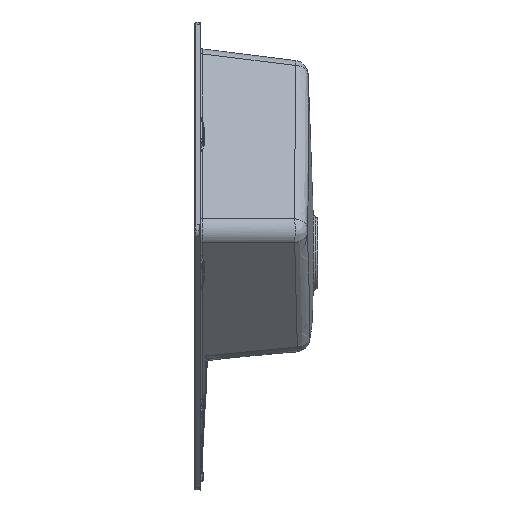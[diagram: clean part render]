
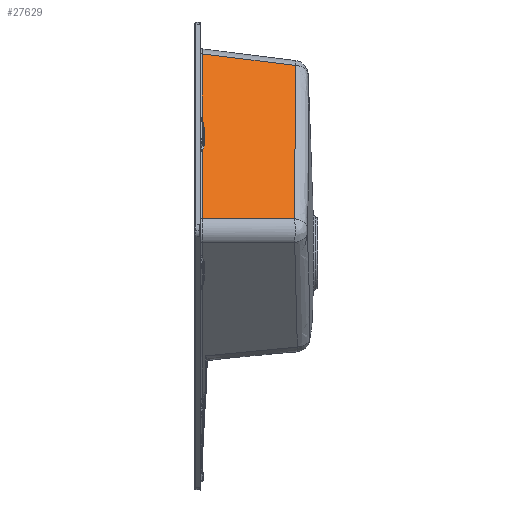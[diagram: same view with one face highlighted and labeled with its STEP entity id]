
A CAD part, left-side view. The second image highlights one B-rep face of the part: STEP entity #27629.
In plain terms, the highlighted planar face has unit normal (-0.704, -0.087, 0.704).
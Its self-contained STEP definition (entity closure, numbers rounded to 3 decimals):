
#566 = EDGE_CURVE ( 'NONE', #27759, #13635, #8551, .T. ) ;
#1130 = CARTESIAN_POINT ( 'NONE',  ( -508.543, -157.051, 19.724 ) ) ;
#1260 = CARTESIAN_POINT ( 'NONE',  ( -369.288, -4.373, 177.869 ) ) ;
#1625 = CARTESIAN_POINT ( 'NONE',  ( -295.581, -159.201, 232.42 ) ) ;
#2229 = CARTESIAN_POINT ( 'NONE',  ( -405.721, -6.775, 141.139 ) ) ;
#2242 = EDGE_CURVE ( 'NONE', #18669, #30328, #16343, .T. ) ;
#2244 = CARTESIAN_POINT ( 'NONE',  ( -375.704, -7.239, 171.098 ) ) ;
#2460 = VERTEX_POINT ( 'NONE', #20440 ) ;
#2724 = DIRECTION ( 'NONE',  ( -0.123, 0.992, 0. ) ) ;
#3033 = CARTESIAN_POINT ( 'NONE',  ( -542.19, -7.239, 4.612 ) ) ;
#3526 = VECTOR ( 'NONE', #24866, 1000. ) ;
#3697 = CARTESIAN_POINT ( 'NONE',  ( -465.903, -158.269, 62.213 ) ) ;
#3861 = CARTESIAN_POINT ( 'NONE',  ( -423.283, -159.14, 104.725 ) ) ;
#4018 = VERTEX_POINT ( 'NONE', #32726 ) ;
#4681 = DIRECTION ( 'NONE',  ( -0.707, 0., -0.707 ) ) ;
#5160 = CARTESIAN_POINT ( 'NONE',  ( -405.091, -7.083, 141.73 ) ) ;
#6290 = CARTESIAN_POINT ( 'NONE',  ( -359.4, -159.692, 168.54 ) ) ;
#8551 = LINE ( 'NONE', #3033, #18528 ) ;
#9594 = CARTESIAN_POINT ( 'NONE',  ( -253.069, 11.02, 295.992 ) ) ;
#10192 = LINE ( 'NONE', #31153, #27508 ) ;
#10667 = CARTESIAN_POINT ( 'NONE',  ( -529.338, 11.02, 19.724 ) ) ;
#10882 = EDGE_CURVE ( 'NONE', #12080, #4018, #27291, .T. ) ;
#12080 = VERTEX_POINT ( 'NONE', #12645 ) ;
#12123 = CARTESIAN_POINT ( 'NONE',  ( -338.12, -159.641, 189.826 ) ) ;
#12202 = ORIENTED_EDGE ( 'NONE', *, *, #13233, .F. ) ;
#12645 = CARTESIAN_POINT ( 'NONE',  ( -253.069, -3.564, 294.188 ) ) ;
#13233 = EDGE_CURVE ( 'NONE', #2460, #30328, #18725, .T. ) ;
#13591 = CARTESIAN_POINT ( 'NONE',  ( -405.721, -6.775, 141.139 ) ) ;
#13635 = VERTEX_POINT ( 'NONE', #22241 ) ;
#14713 = AXIS2_PLACEMENT_3D ( 'NONE', #24685, #32940, #17136 ) ;
#14999 = CARTESIAN_POINT ( 'NONE',  ( -374.484, -6.775, 172.375 ) ) ;
#15471 = VECTOR ( 'NONE', #2724, 1000. ) ;
#15538 = EDGE_CURVE ( 'NONE', #19346, #17163, #31775, .T. ) ;
#16007 = ORIENTED_EDGE ( 'NONE', *, *, #566, .T. ) ;
#16343 = LINE ( 'NONE', #26635, #18487 ) ;
#16606 = CARTESIAN_POINT ( 'NONE',  ( -374.484, -6.775, 172.375 ) ) ;
#16655 = CARTESIAN_POINT ( 'NONE',  ( -527.533, -3.564, 19.724 ) ) ;
#16792 = CARTESIAN_POINT ( 'NONE',  ( -401.982, -159.44, 125.989 ) ) ;
#16834 = ORIENTED_EDGE ( 'NONE', *, *, #24769, .T. ) ;
#17003 = ORIENTED_EDGE ( 'NONE', *, *, #19214, .T. ) ;
#17115 = CARTESIAN_POINT ( 'NONE',  ( -253.069, -158.31, 275.042 ) ) ;
#17136 = DIRECTION ( 'NONE',  ( 0.707, 0., 0.707 ) ) ;
#17163 = VERTEX_POINT ( 'NONE', #16606 ) ;
#17217 =( BOUNDED_CURVE ( )  B_SPLINE_CURVE ( 3, ( #13591, #23410, #32130, #26978 ),
 .UNSPECIFIED., .F., .F. ) 
 B_SPLINE_CURVE_WITH_KNOTS ( ( 4, 4 ),
 ( 2.8, 2.936 ),
 .UNSPECIFIED. ) 
 CURVE ( )  GEOMETRIC_REPRESENTATION_ITEM ( )  RATIONAL_B_SPLINE_CURVE ( ( 1., 0.998, 0.998, 1. ) ) 
 REPRESENTATION_ITEM ( '' )  );
#18101 = ORIENTED_EDGE ( 'NONE', *, *, #15538, .T. ) ;
#18487 = VECTOR ( 'NONE', #29054, 1000. ) ;
#18528 = VECTOR ( 'NONE', #19034, 1000. ) ;
#18669 = VERTEX_POINT ( 'NONE', #21792 ) ;
#18725 = LINE ( 'NONE', #10667, #15471 ) ;
#19034 = DIRECTION ( 'NONE',  ( -0.707, 0., -0.707 ) ) ;
#19214 = EDGE_CURVE ( 'NONE', #12080, #19346, #10192, .T. ) ;
#19346 = VERTEX_POINT ( 'NONE', #20110 ) ;
#19823 = ORIENTED_EDGE ( 'NONE', *, *, #10882, .F. ) ;
#20110 = CARTESIAN_POINT ( 'NONE',  ( -366.591, -3.564, 180.665 ) ) ;
#20440 = CARTESIAN_POINT ( 'NONE',  ( -508.543, -157.051, 19.724 ) ) ;
#20885 = EDGE_CURVE ( 'NONE', #4018, #2460, #32460, .T. ) ;
#20930 = EDGE_LOOP ( 'NONE', ( #16834, #31297, #21561, #12202, #26520, #19823, #17003, #18101, #24383, #16007 ) ) ;
#21561 = ORIENTED_EDGE ( 'NONE', *, *, #2242, .T. ) ;
#21792 = CARTESIAN_POINT ( 'NONE',  ( -414.011, -3.564, 133.246 ) ) ;
#22063 = CARTESIAN_POINT ( 'NONE',  ( -371.923, -5.445, 175.101 ) ) ;
#22241 = CARTESIAN_POINT ( 'NONE',  ( -403.795, -7.239, 143.007 ) ) ;
#23410 = CARTESIAN_POINT ( 'NONE',  ( -408.446, -5.445, 138.578 ) ) ;
#24383 = ORIENTED_EDGE ( 'NONE', *, *, #29055, .T. ) ;
#24664 = CARTESIAN_POINT ( 'NONE',  ( -487.221, -157.702, 40.965 ) ) ;
#24685 = CARTESIAN_POINT ( 'NONE',  ( -543.213, 9.303, 5.635 ) ) ;
#24769 = EDGE_CURVE ( 'NONE', #13635, #30591, #26334, .T. ) ;
#24866 = DIRECTION ( 'NONE',  ( 0., -0.992, -0.123 ) ) ;
#25461 = CARTESIAN_POINT ( 'NONE',  ( -376.352, -7.239, 170.45 ) ) ;
#25782 = CARTESIAN_POINT ( 'NONE',  ( -404.443, -7.239, 142.359 ) ) ;
#25795 = CARTESIAN_POINT ( 'NONE',  ( -375.076, -7.083, 171.746 ) ) ;
#26334 =( BOUNDED_CURVE ( )  B_SPLINE_CURVE ( 3, ( #28370, #25782, #5160, #2229 ),
 .UNSPECIFIED., .F., .F. ) 
 B_SPLINE_CURVE_WITH_KNOTS ( ( 4, 4 ),
 ( 0., 0.342 ),
 .UNSPECIFIED. ) 
 CURVE ( )  GEOMETRIC_REPRESENTATION_ITEM ( )  RATIONAL_B_SPLINE_CURVE ( ( 1., 0.99, 0.99, 1. ) ) 
 REPRESENTATION_ITEM ( '' )  );
#26520 = ORIENTED_EDGE ( 'NONE', *, *, #20885, .F. ) ;
#26635 = CARTESIAN_POINT ( 'NONE',  ( -527.815, -3.564, 19.441 ) ) ;
#26978 = CARTESIAN_POINT ( 'NONE',  ( -414.011, -3.564, 133.246 ) ) ;
#27280 = FACE_OUTER_BOUND ( 'NONE', #20930, .T. ) ;
#27291 = LINE ( 'NONE', #9594, #3526 ) ;
#27421 = CARTESIAN_POINT ( 'NONE',  ( -274.321, -158.815, 253.727 ) ) ;
#27508 = VECTOR ( 'NONE', #4681, 1000. ) ;
#27629 = ADVANCED_FACE ( 'NONE', ( #27280 ), #32766, .T. ) ;
#27759 = VERTEX_POINT ( 'NONE', #28583 ) ;
#27819 = EDGE_CURVE ( 'NONE', #30591, #18669, #17217, .T. ) ;
#28370 = CARTESIAN_POINT ( 'NONE',  ( -403.795, -7.239, 143.007 ) ) ;
#28583 = CARTESIAN_POINT ( 'NONE',  ( -376.352, -7.239, 170.45 ) ) ;
#29054 = DIRECTION ( 'NONE',  ( -0.707, 0., -0.707 ) ) ;
#29055 = EDGE_CURVE ( 'NONE', #17163, #27759, #29057, .T. ) ;
#29057 =( BOUNDED_CURVE ( )  B_SPLINE_CURVE ( 3, ( #14999, #25795, #2244, #25461 ),
 .UNSPECIFIED., .F., .F. ) 
 B_SPLINE_CURVE_WITH_KNOTS ( ( 4, 4 ),
 ( 2.8, 3.142 ),
 .UNSPECIFIED. ) 
 CURVE ( )  GEOMETRIC_REPRESENTATION_ITEM ( )  RATIONAL_B_SPLINE_CURVE ( ( 1., 0.99, 0.99, 1. ) ) 
 REPRESENTATION_ITEM ( '' )  );
#29800 = CARTESIAN_POINT ( 'NONE',  ( -366.591, -3.564, 180.665 ) ) ;
#30328 = VERTEX_POINT ( 'NONE', #16655 ) ;
#30591 = VERTEX_POINT ( 'NONE', #31402 ) ;
#31153 = CARTESIAN_POINT ( 'NONE',  ( -527.815, -3.564, 19.441 ) ) ;
#31297 = ORIENTED_EDGE ( 'NONE', *, *, #27819, .T. ) ;
#31402 = CARTESIAN_POINT ( 'NONE',  ( -405.721, -6.775, 141.139 ) ) ;
#31775 =( BOUNDED_CURVE ( )  B_SPLINE_CURVE ( 3, ( #29800, #1260, #22063, #32546 ),
 .UNSPECIFIED., .F., .F. ) 
 B_SPLINE_CURVE_WITH_KNOTS ( ( 4, 4 ),
 ( 0.205, 0.342 ),
 .UNSPECIFIED. ) 
 CURVE ( )  GEOMETRIC_REPRESENTATION_ITEM ( )  RATIONAL_B_SPLINE_CURVE ( ( 1., 0.998, 0.998, 1. ) ) 
 REPRESENTATION_ITEM ( '' )  );
#32130 = CARTESIAN_POINT ( 'NONE',  ( -411.214, -4.373, 135.943 ) ) ;
#32460 = B_SPLINE_CURVE_WITH_KNOTS ( 'NONE', 3,
 ( #17115, #27421, #1625, #12123, #6290, #16792, #3861, #3697, #24664, #1130 ),
 .UNSPECIFIED., .F., .F.,
 ( 4, 2, 2, 2, 4 ),
 ( 0., 0.09, 0.181, 0.271, 0.361 ),
 .UNSPECIFIED. ) ;
#32546 = CARTESIAN_POINT ( 'NONE',  ( -374.484, -6.775, 172.375 ) ) ;
#32726 = CARTESIAN_POINT ( 'NONE',  ( -253.069, -158.31, 275.042 ) ) ;
#32766 = PLANE ( 'NONE',  #14713 ) ;
#32940 = DIRECTION ( 'NONE',  ( -0.704, -0.087, 0.704 ) ) ;
